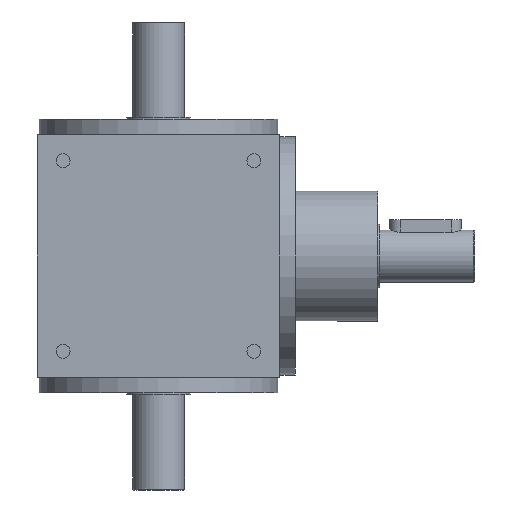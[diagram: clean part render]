
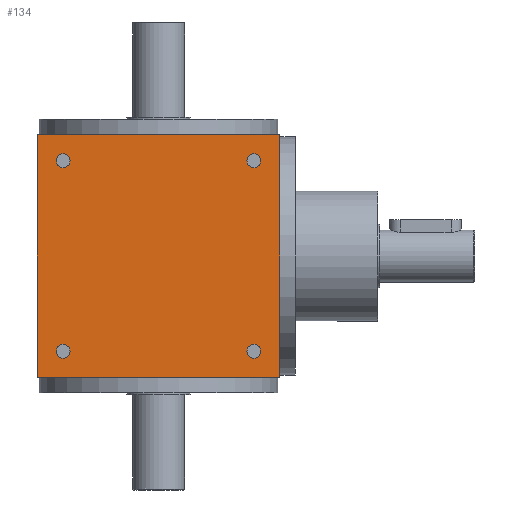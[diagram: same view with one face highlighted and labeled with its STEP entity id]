
A CAD part, left-side view. The second image highlights one B-rep face of the part: STEP entity #134.
In plain terms, the highlighted planar face has unit normal (-1, 0, 0).
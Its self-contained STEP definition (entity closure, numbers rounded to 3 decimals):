
#81 = CIRCLE ( 'NONE', #4180, 8. ) ;
#134 = ADVANCED_FACE ( 'NONE', ( #3284, #3355, #3339, #3278, #3271 ), #932, .F. ) ;
#301 = CARTESIAN_POINT ( 'NONE',  ( -140., 140., -140. ) ) ;
#309 = VERTEX_POINT ( 'NONE', #301 ) ;
#389 = CIRCLE ( 'NONE', #4166, 8. ) ;
#460 = CIRCLE ( 'NONE', #4149, 8. ) ;
#557 = CIRCLE ( 'NONE', #4156, 8. ) ;
#637 = VERTEX_POINT ( 'NONE', #2124 ) ;
#678 = DIRECTION ( 'NONE',  ( 0., 0., -1. ) ) ;
#725 = CARTESIAN_POINT ( 'NONE',  ( -140., -110., -110. ) ) ;
#775 = DIRECTION ( 'NONE',  ( 0., 0., -1. ) ) ;
#801 = DIRECTION ( 'NONE',  ( 1., 0., 0. ) ) ;
#808 = CARTESIAN_POINT ( 'NONE',  ( -140., -140., 140. ) ) ;
#859 = VERTEX_POINT ( 'NONE', #5278 ) ;
#901 = ORIENTED_EDGE ( 'NONE', *, *, #2715, .T. ) ;
#932 = PLANE ( 'NONE',  #4910 ) ;
#995 = DIRECTION ( 'NONE',  ( 1., 0., 0. ) ) ;
#1077 = CARTESIAN_POINT ( 'NONE',  ( -140., 140., 140. ) ) ;
#1124 = EDGE_LOOP ( 'NONE', ( #901, #2764 ) ) ;
#1312 = CARTESIAN_POINT ( 'NONE',  ( -140., -140., -140. ) ) ;
#1640 = CARTESIAN_POINT ( 'NONE',  ( -140., 140., -140. ) ) ;
#1747 = VERTEX_POINT ( 'NONE', #1855 ) ;
#1855 = CARTESIAN_POINT ( 'NONE',  ( -140., 110., -102. ) ) ;
#2039 = DIRECTION ( 'NONE',  ( 0., -1., 0. ) ) ;
#2124 = CARTESIAN_POINT ( 'NONE',  ( -140., 140., 140. ) ) ;
#2235 = VERTEX_POINT ( 'NONE', #5527 ) ;
#2341 = VERTEX_POINT ( 'NONE', #5406 ) ;
#2393 = LINE ( 'NONE', #1640, #3309 ) ;
#2433 = VERTEX_POINT ( 'NONE', #1312 ) ;
#2459 = CIRCLE ( 'NONE', #4064, 8. ) ;
#2546 = LINE ( 'NONE', #6279, #2627 ) ;
#2589 = EDGE_LOOP ( 'NONE', ( #3665, #2875 ) ) ;
#2617 = CIRCLE ( 'NONE', #4036, 8. ) ;
#2627 = VECTOR ( 'NONE', #4786, 1000. ) ;
#2640 = CIRCLE ( 'NONE', #4052, 8. ) ;
#2670 = EDGE_CURVE ( 'NONE', #5064, #5260, #81, .T. ) ;
#2684 = EDGE_CURVE ( 'NONE', #5247, #859, #389, .T. ) ;
#2702 = CIRCLE ( 'NONE', #4028, 8. ) ;
#2715 = EDGE_CURVE ( 'NONE', #1747, #2235, #557, .T. ) ;
#2739 = EDGE_CURVE ( 'NONE', #5821, #5985, #460, .T. ) ;
#2764 = ORIENTED_EDGE ( 'NONE', *, *, #2961, .T. ) ;
#2875 = ORIENTED_EDGE ( 'NONE', *, *, #2954, .T. ) ;
#2922 = EDGE_CURVE ( 'NONE', #2433, #309, #2393, .T. ) ;
#2949 = EDGE_CURVE ( 'NONE', #2341, #2433, #2546, .T. ) ;
#2954 = EDGE_CURVE ( 'NONE', #5985, #5821, #2459, .T. ) ;
#2961 = EDGE_CURVE ( 'NONE', #2235, #1747, #2640, .T. ) ;
#2973 = EDGE_CURVE ( 'NONE', #859, #5247, #2617, .T. ) ;
#2979 = EDGE_CURVE ( 'NONE', #5260, #5064, #2702, .T. ) ;
#3036 = ORIENTED_EDGE ( 'NONE', *, *, #2973, .T. ) ;
#3115 = ORIENTED_EDGE ( 'NONE', *, *, #3142, .F. ) ;
#3140 = EDGE_CURVE ( 'NONE', #637, #2341, #3975, .T. ) ;
#3142 = EDGE_CURVE ( 'NONE', #309, #637, #3988, .T. ) ;
#3271 = FACE_BOUND ( 'NONE', #5296, .T. ) ;
#3278 = FACE_BOUND ( 'NONE', #3746, .T. ) ;
#3284 = FACE_OUTER_BOUND ( 'NONE', #5637, .T. ) ;
#3309 = VECTOR ( 'NONE', #3821, 1000. ) ;
#3339 = FACE_BOUND ( 'NONE', #1124, .T. ) ;
#3355 = FACE_BOUND ( 'NONE', #2589, .T. ) ;
#3496 = ORIENTED_EDGE ( 'NONE', *, *, #2979, .T. ) ;
#3665 = ORIENTED_EDGE ( 'NONE', *, *, #2739, .T. ) ;
#3746 = EDGE_LOOP ( 'NONE', ( #3826, #3036 ) ) ;
#3821 = DIRECTION ( 'NONE',  ( 0., 1., 0. ) ) ;
#3826 = ORIENTED_EDGE ( 'NONE', *, *, #2684, .T. ) ;
#3831 = ORIENTED_EDGE ( 'NONE', *, *, #2949, .F. ) ;
#3975 = LINE ( 'NONE', #1077, #4042 ) ;
#3988 = LINE ( 'NONE', #6343, #4068 ) ;
#4028 = AXIS2_PLACEMENT_3D ( 'NONE', #4828, #4817, #4813 ) ;
#4036 = AXIS2_PLACEMENT_3D ( 'NONE', #5310, #5288, #5238 ) ;
#4042 = VECTOR ( 'NONE', #2039, 1000. ) ;
#4052 = AXIS2_PLACEMENT_3D ( 'NONE', #5675, #5617, #5493 ) ;
#4064 = AXIS2_PLACEMENT_3D ( 'NONE', #5895, #5880, #5811 ) ;
#4068 = VECTOR ( 'NONE', #6296, 1000. ) ;
#4149 = AXIS2_PLACEMENT_3D ( 'NONE', #4600, #4588, #4540 ) ;
#4156 = AXIS2_PLACEMENT_3D ( 'NONE', #5140, #5123, #5099 ) ;
#4166 = AXIS2_PLACEMENT_3D ( 'NONE', #6233, #6166, #6063 ) ;
#4180 = AXIS2_PLACEMENT_3D ( 'NONE', #725, #995, #678 ) ;
#4540 = DIRECTION ( 'NONE',  ( 0., 0., -1. ) ) ;
#4588 = DIRECTION ( 'NONE',  ( 1., 0., 0. ) ) ;
#4600 = CARTESIAN_POINT ( 'NONE',  ( -140., 110., 110. ) ) ;
#4633 = CARTESIAN_POINT ( 'NONE',  ( -140., -110., -118. ) ) ;
#4786 = DIRECTION ( 'NONE',  ( 0., 0., -1. ) ) ;
#4813 = DIRECTION ( 'NONE',  ( 0., 0., -1. ) ) ;
#4817 = DIRECTION ( 'NONE',  ( 1., 0., 0. ) ) ;
#4828 = CARTESIAN_POINT ( 'NONE',  ( -140., -110., -110. ) ) ;
#4834 = CARTESIAN_POINT ( 'NONE',  ( -140., -110., 118. ) ) ;
#4880 = CARTESIAN_POINT ( 'NONE',  ( -140., 110., 102. ) ) ;
#4910 = AXIS2_PLACEMENT_3D ( 'NONE', #808, #801, #775 ) ;
#4938 = ORIENTED_EDGE ( 'NONE', *, *, #3140, .F. ) ;
#5064 = VERTEX_POINT ( 'NONE', #5395 ) ;
#5099 = DIRECTION ( 'NONE',  ( 0., 0., -1. ) ) ;
#5123 = DIRECTION ( 'NONE',  ( 1., 0., 0. ) ) ;
#5140 = CARTESIAN_POINT ( 'NONE',  ( -140., 110., -110. ) ) ;
#5203 = CARTESIAN_POINT ( 'NONE',  ( -140., 110., 118. ) ) ;
#5238 = DIRECTION ( 'NONE',  ( 0., 0., -1. ) ) ;
#5247 = VERTEX_POINT ( 'NONE', #4834 ) ;
#5260 = VERTEX_POINT ( 'NONE', #4633 ) ;
#5278 = CARTESIAN_POINT ( 'NONE',  ( -140., -110., 102. ) ) ;
#5288 = DIRECTION ( 'NONE',  ( 1., 0., 0. ) ) ;
#5296 = EDGE_LOOP ( 'NONE', ( #5574, #3496 ) ) ;
#5300 = ORIENTED_EDGE ( 'NONE', *, *, #2922, .F. ) ;
#5310 = CARTESIAN_POINT ( 'NONE',  ( -140., -110., 110. ) ) ;
#5395 = CARTESIAN_POINT ( 'NONE',  ( -140., -110., -102. ) ) ;
#5406 = CARTESIAN_POINT ( 'NONE',  ( -140., -140., 140. ) ) ;
#5493 = DIRECTION ( 'NONE',  ( 0., 0., -1. ) ) ;
#5527 = CARTESIAN_POINT ( 'NONE',  ( -140., 110., -118. ) ) ;
#5574 = ORIENTED_EDGE ( 'NONE', *, *, #2670, .T. ) ;
#5617 = DIRECTION ( 'NONE',  ( 1., 0., 0. ) ) ;
#5637 = EDGE_LOOP ( 'NONE', ( #4938, #3115, #5300, #3831 ) ) ;
#5675 = CARTESIAN_POINT ( 'NONE',  ( -140., 110., -110. ) ) ;
#5811 = DIRECTION ( 'NONE',  ( 0., 0., -1. ) ) ;
#5821 = VERTEX_POINT ( 'NONE', #5203 ) ;
#5880 = DIRECTION ( 'NONE',  ( 1., 0., 0. ) ) ;
#5895 = CARTESIAN_POINT ( 'NONE',  ( -140., 110., 110. ) ) ;
#5985 = VERTEX_POINT ( 'NONE', #4880 ) ;
#6063 = DIRECTION ( 'NONE',  ( 0., 0., -1. ) ) ;
#6166 = DIRECTION ( 'NONE',  ( 1., 0., 0. ) ) ;
#6233 = CARTESIAN_POINT ( 'NONE',  ( -140., -110., 110. ) ) ;
#6279 = CARTESIAN_POINT ( 'NONE',  ( -140., -140., 140. ) ) ;
#6296 = DIRECTION ( 'NONE',  ( 0., 0., 1. ) ) ;
#6343 = CARTESIAN_POINT ( 'NONE',  ( -140., 140., 140. ) ) ;
